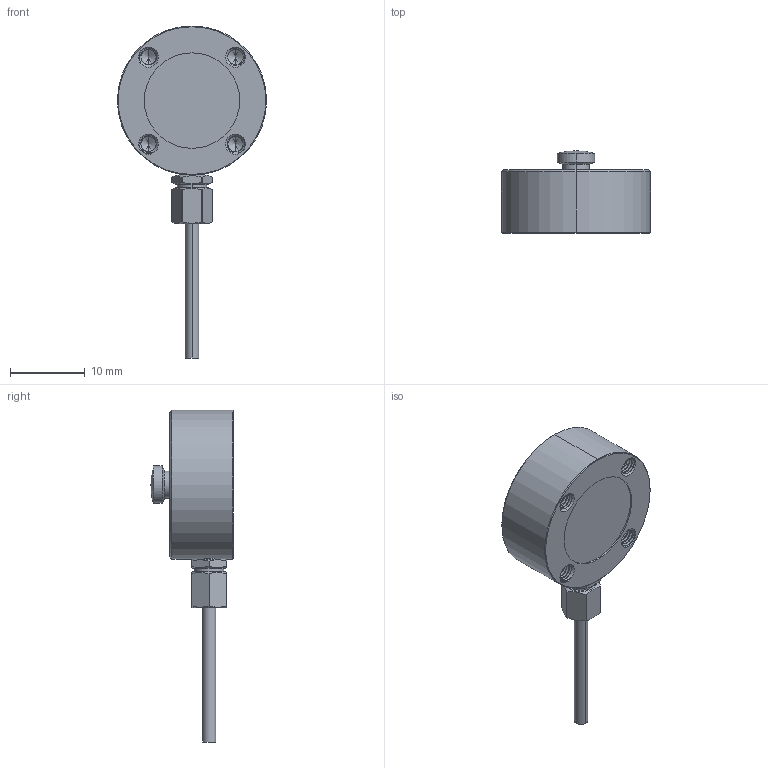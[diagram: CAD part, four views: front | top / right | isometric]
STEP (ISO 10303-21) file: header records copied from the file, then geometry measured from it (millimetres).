
FILE_DESCRIPTION (( 'STEP AP203' ), '1' );
FILE_NAME ('lcb05-100kg.STEP', '2025-10-16T13:44:39', ( '' ), ( '' ), 'SwSTEP 2.0', 'SolidWorks 2019', '' );
FILE_SCHEMA (( 'CONFIG_CONTROL_DESIGN' ));
Length unit declared in the file: millimetre
Products named in the file (1): lcb05-100kg
Bounding box: 20 x 11.02 x 44.5 mm (x, y, z)
Volume: 2655.7 mm3; surface area: 1893.8 mm2
Topology: 3 solids, 3 shells, 222 faces, 592 edges, 377 vertices
Faces by surface type: cylinder 140, cone 38, plane 27, bspline 14, torus 2, sphere 1
Entity records: 21791 total; most frequent: CARTESIAN_POINT 16917, ORIENTED_EDGE 1164, DIRECTION 816, EDGE_CURVE 582, VERTEX_POINT 376, AXIS2_PLACEMENT_3D 315, EDGE_LOOP 234, ADVANCED_FACE 222
